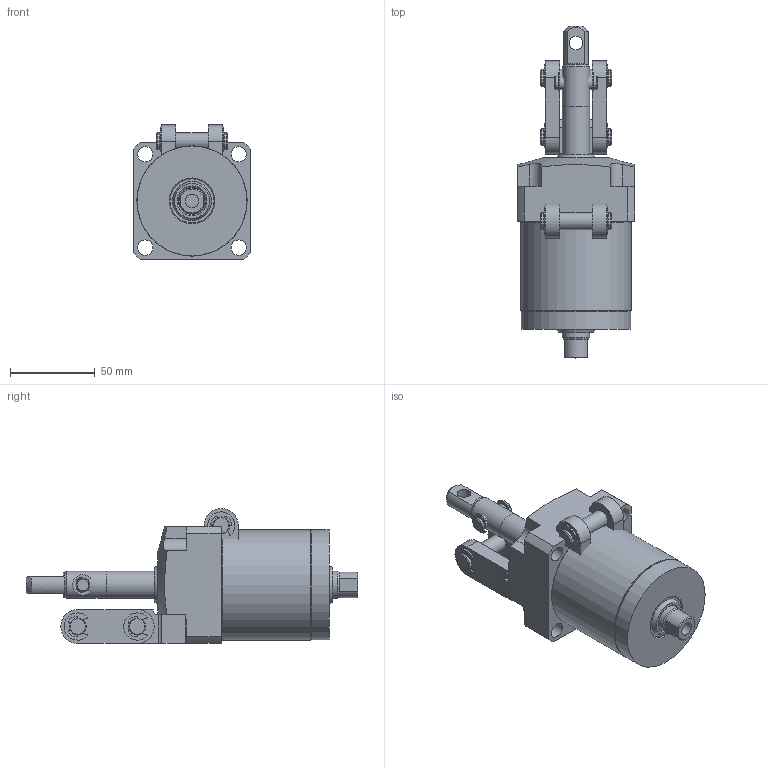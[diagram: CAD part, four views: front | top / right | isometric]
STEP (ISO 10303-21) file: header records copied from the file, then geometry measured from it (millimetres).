
FILE_DESCRIPTION( ( '' ), '1' );
FILE_NAME( 'W:/Catalogue/JL5H/JL5H42-28KRD/JL5H42-28KRD.stp', '2008-05-26T02:06:24', ( '機械事業部産業機器グループ' ), ( '豊和工業株式会社' ), 'XStep 1.0', ' ', ' ' );
FILE_SCHEMA( ( 'CONFIG_CONTROL_DESIGN' ) );
Length unit declared in the file: millimetre
Products named in the file (5): Assem1; 1; 2; 3; 4
Bounding box: 69 x 195.5 x 79.5 mm (x, y, z)
Volume: 731331.4 mm3; surface area: 142635.4 mm2
Topology: 8 solids, 12 shells, 572 faces, 1476 edges, 966 vertices
Faces by surface type: plane 282, cylinder 232, cone 54, torus 4
Full cylindrical faces by diameter (mm): 2 x2, 6 x4, 8 x18, 9 x8, 10 x14, 11 x4, 14.5 x2, 16 x8, 18 x4, 22 x4, 26 x8, 42 x4, 64 x4, 64.7 x2, 65 x2
Entity records: 8610 total; most frequent: CARTESIAN_POINT 1564, DIRECTION 1507, ORIENTED_EDGE 1278, EDGE_CURVE 639, AXIS2_PLACEMENT_3D 599, VERTEX_POINT 457, EDGE_LOOP 403, FACE_OUTER_BOUND 332
